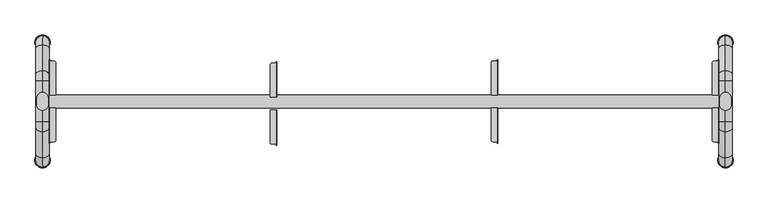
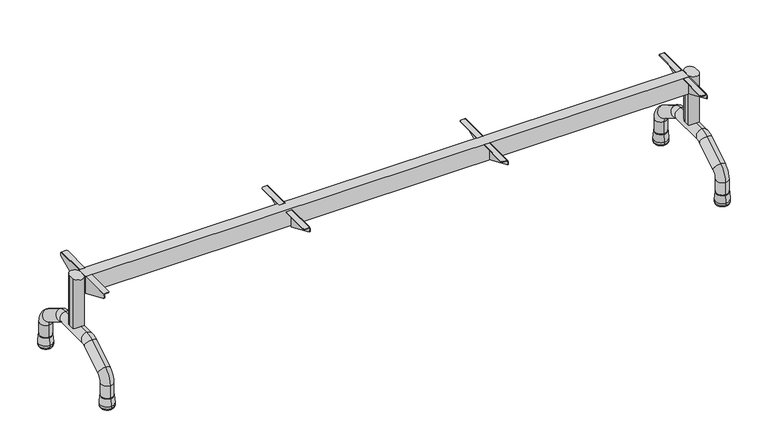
"""IFC4 building model written with IfcOpenShell, lengths in millimetres: furniture geometry, Banco para refeitório : Banco para refeitório 220x30cm cód 40473.4."""

from ifc_helpers import new_model, si_unit, point, frame, frame_2d, origin, place, context, project, spatial, polyline, circle_curve, ellipse_curve, trimmed, segment, composite_curve, outline, extrude, source, transform, mapped, element, save
from ifc_brep_helpers import plane_surface, cylinder_surface, revolved_surface, advanced_brep


def furniture_98b8466e(model_context):
    return source(origin(), model_context, "Body", "SolidModel", [
        extrude(outline(composite_curve([segment(trimmed(circle_curve(frame_2d((-1040.0, -9.5)), 18.0), [point((-1022.0, -9.5))], [point((-1058.0, -9.5))], False, "CARTESIAN"), True, "CONTINUOUS"), segment(polyline([(-1058.0, -9.5), (-1058.0, 9.5)]), True, "CONTINUOUS"), segment(trimmed(circle_curve(frame_2d((-1040.0, 9.5)), 18.0), [point((-1058.0, 9.5))], [point((-1022.0, 9.5))], False, "CARTESIAN"), True, "CONTINUOUS"), segment(polyline([(-1022.0, 9.5), (-1022.0, -9.5)]), True, "CONTINUOUS")], self_intersect=False)), frame((0.0, 0.0, 175.0), z_axis=(0.0, 0.0, 1.0), x_axis=(1.0, 0.0, 0.0)), (0.0, 0.0, 1.0), 187.0),
        advanced_brep(
        [(-1040.0, -160.0, 43.1183008), (-1040.0, -200.0, 43.1183008), (-1040.0, -160.0, 86.179057), (-1040.0, -200.0, 86.179057), (-1040.0, -171.6393713, 137.1589568), (-1040.0, -150.5464571, 103.1723569), (-1040.0, -71.882227, 151.9932999), (-1040.0, -92.9751412, 185.9798998), (-1040.0, -61.3357699, 195.0), (-1040.0, -61.3357699, 155.0), (-1040.0, 61.3357699, 155.0), (-1040.0, 61.3357699, 195.0), (-1040.0, 160.0, 43.1183008), (-1040.0, 200.0, 43.1183008), (-1040.0, 92.9751412, 185.9798998), (-1040.0, 71.882227, 151.9932999), (-1040.0, 150.5464571, 103.1723569), (-1040.0, 171.6393713, 137.1589568), (-1040.0, 200.0, 86.179057), (-1040.0, 160.0, 86.179057)],
        [
            (0, 1, circle_curve(frame((-1040.0, -180.0, 43.1183008), z_axis=(0.0, 0.0, -1.0), x_axis=(0.0, -1.0, 0.0)), 20.0)),
            (1, 0, circle_curve(frame((-1040.0, -180.0, 43.1183008), z_axis=(0.0, 0.0, -1.0), x_axis=(0.0, -1.0, 0.0)), 20.0)),
            (0, 2),
            (2, 3, circle_curve(frame((-1040.0, -180.0, 86.179057), z_axis=(0.0, 0.0, -1.0), x_axis=(0.0, -1.0, 0.0)), 20.0)),
            (3, 1),
            (3, 2, circle_curve(frame((-1040.0, -180.0, 86.179057), z_axis=(0.0, 0.0, -1.0), x_axis=(0.0, -1.0, 0.0)), 20.0)),
            (4, 5, circle_curve(frame((-1040.0, -161.0929142, 120.1656569), z_axis=(0.0, 0.8496649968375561, 0.5273228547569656), x_axis=(0.0, -0.5273228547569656, 0.8496649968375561)), 20.0)),
            (5, 6),
            (6, 7, circle_curve(frame((-1040.0, -82.4286841, 168.9865999), z_axis=(0.0, -0.8496649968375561, -0.5273228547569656), x_axis=(0.0, -0.5273228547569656, 0.8496649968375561)), 20.0)),
            (7, 4),
            (5, 4, circle_curve(frame((-1040.0, -161.0929142, 120.1656569), z_axis=(0.0, 0.8496649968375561, 0.5273228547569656), x_axis=(0.0, -0.5273228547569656, 0.8496649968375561)), 20.0)),
            (7, 6, circle_curve(frame((-1040.0, -82.4286841, 168.9865999), z_axis=(0.0, -0.8496649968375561, -0.5273228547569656), x_axis=(0.0, -0.5273228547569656, 0.8496649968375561)), 20.0)),
            (8, 9, circle_curve(frame((-1040.0, -61.3357699, 175.0), z_axis=(0.0, 1.0, 0.0), x_axis=(0.0, 0.0, 1.0)), 20.0)),
            (9, 10),
            (10, 11, circle_curve(frame((-1040.0, 61.3357699, 175.0), z_axis=(0.0, -1.0, 0.0), x_axis=(0.0, 0.0, 1.0)), 20.0)),
            (11, 8),
            (9, 8, circle_curve(frame((-1040.0, -61.3357699, 175.0), z_axis=(0.0, 1.0, 0.0), x_axis=(0.0, 0.0, 1.0)), 20.0)),
            (11, 10, circle_curve(frame((-1040.0, 61.3357699, 175.0), z_axis=(0.0, -1.0, 0.0), x_axis=(0.0, 0.0, 1.0)), 20.0)),
            (12, 13, circle_curve(frame((-1040.0, 180.0, 43.1183008), z_axis=(0.0, 0.0, -1.0), x_axis=(0.0, 1.0, 0.0)), 20.0)),
            (13, 12, circle_curve(frame((-1040.0, 180.0, 43.1183008), z_axis=(0.0, 0.0, -1.0), x_axis=(0.0, 1.0, 0.0)), 20.0)),
            (4, 3, circle_curve(frame((-1040.0, -140.0, 86.179057), z_axis=(1.0, 0.0, 0.0), x_axis=(0.0, -1.0, 0.0)), 60.0)),
            (2, 5, circle_curve(frame((-1040.0, -140.0, 86.179057), z_axis=(-1.0, 0.0, 0.0), x_axis=(0.0, -1.0, 0.0)), 20.0)),
            (8, 7, circle_curve(frame((-1040.0, -61.3357699, 135.0), z_axis=(1.0, 0.0, 0.0), x_axis=(0.0, -0.5273228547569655, 0.8496649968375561)), 60.0)),
            (6, 9, circle_curve(frame((-1040.0, -61.3357699, 135.0), z_axis=(-1.0, 0.0, 0.0), x_axis=(0.0, -0.5273228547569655, 0.8496649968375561)), 20.0)),
            (14, 11, circle_curve(frame((-1040.0, 61.3357699, 135.0), z_axis=(1.0, 0.0, 0.0), x_axis=(0.0, 0.0, 1.0)), 60.0)),
            (10, 15, circle_curve(frame((-1040.0, 61.3357699, 135.0), z_axis=(-1.0, 0.0, 0.0), x_axis=(0.0, 0.0, 1.0)), 20.0)),
            (15, 14, circle_curve(frame((-1040.0, 82.4286841, 168.9865999), z_axis=(0.0, -0.8496649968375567, 0.5273228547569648), x_axis=(0.0, 0.5273228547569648, 0.8496649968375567)), 20.0)),
            (14, 15, circle_curve(frame((-1040.0, 82.4286841, 168.9865999), z_axis=(0.0, -0.8496649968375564, 0.5273228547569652), x_axis=(0.0, 0.5273228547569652, 0.8496649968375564)), 20.0)),
            (15, 16),
            (16, 17, circle_curve(frame((-1040.0, 161.0929142, 120.1656569), z_axis=(0.0, -0.849664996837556, 0.5273228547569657), x_axis=(0.0, 0.5273228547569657, 0.849664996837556)), 20.0)),
            (17, 14),
            (17, 16, circle_curve(frame((-1040.0, 161.0929142, 120.1656569), z_axis=(0.0, -0.849664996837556, 0.5273228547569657), x_axis=(0.0, 0.5273228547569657, 0.849664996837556)), 20.0)),
            (18, 17, circle_curve(frame((-1040.0, 140.0, 86.179057), z_axis=(1.0, 0.0, 0.0), x_axis=(0.0, 0.5273228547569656, 0.849664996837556)), 60.0)),
            (16, 19, circle_curve(frame((-1040.0, 140.0, 86.179057), z_axis=(-1.0, 0.0, 0.0), x_axis=(0.0, 0.5273228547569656, 0.849664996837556)), 20.0)),
            (19, 18, circle_curve(frame((-1040.0, 180.0, 86.179057), z_axis=(0.0, 0.0, 1.0), x_axis=(0.0, 1.0, 0.0)), 20.0)),
            (18, 19, circle_curve(frame((-1040.0, 180.0, 86.179057), z_axis=(0.0, 0.0, 1.0), x_axis=(0.0, 1.0, 0.0)), 20.0)),
            (19, 12),
            (13, 18),
        ],
        [
            plane_surface(frame((-1730.0, -180.0, 43.1183008), z_axis=(0.0, 0.0, -1.0), x_axis=(1.0, 0.0, 0.0))),
            cylinder_surface(frame((-1040.0, -180.0, 43.1183008), z_axis=(0.0, 0.0, -1.0), x_axis=(0.0, -1.0, 0.0)), 20.0),
            cylinder_surface(frame((-1040.0, -161.0929142, 120.1656569), z_axis=(0.0, -0.8496649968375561, -0.5273228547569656), x_axis=(0.0, -0.5273228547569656, 0.8496649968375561)), 20.0),
            cylinder_surface(frame((-1040.0, -61.3357699, 175.0), z_axis=(0.0, -1.0, 0.0), x_axis=(0.0, 0.0, 1.0)), 20.0),
            plane_surface(frame((-1730.0, 180.0, 43.1183008), z_axis=(0.0, 0.0, -1.0), x_axis=(1.0, 0.0, 0.0))),
            revolved_surface(trimmed(ellipse_curve(frame((-1040.0, -180.0, 86.179057), z_axis=(0.0, 0.0, -1.0), x_axis=(0.0, -1.0, 0.0)), 20.0, 20.0), [point((-1040.0, -160.0, 86.179057))], [point((-1040.0, -200.0, 86.179057))], True, "CARTESIAN"), (-1730.0, -140.0, 86.179057), (-1.0, 0.0, 0.0)),
            revolved_surface(trimmed(ellipse_curve(frame((-1040.0, -180.0, 86.179057), z_axis=(0.0, 0.0, -1.0), x_axis=(0.0, -1.0, 0.0)), 20.0, 20.0), [point((-1040.0, -200.0, 86.179057))], [point((-1040.0, -160.0, 86.179057))], True, "CARTESIAN"), (-1730.0, -140.0, 86.179057), (-1.0, 0.0, 0.0)),
            revolved_surface(trimmed(ellipse_curve(frame((-1040.0, -82.4286841, 168.9865999), z_axis=(0.0, -0.8496649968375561, -0.5273228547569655), x_axis=(0.0, -0.5273228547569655, 0.8496649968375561)), 20.0, 20.0), [point((-1040.0, -71.882227, 151.9932999))], [point((-1040.0, -92.9751412, 185.9798998))], True, "CARTESIAN"), (-1730.0, -61.3357699, 135.0), (-1.0, 0.0, 0.0)),
            revolved_surface(trimmed(ellipse_curve(frame((-1040.0, -82.4286841, 168.9865999), z_axis=(0.0, -0.8496649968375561, -0.5273228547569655), x_axis=(0.0, -0.5273228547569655, 0.8496649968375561)), 20.0, 20.0), [point((-1040.0, -92.9751412, 185.9798998))], [point((-1040.0, -71.882227, 151.9932999))], True, "CARTESIAN"), (-1730.0, -61.3357699, 135.0), (-1.0, 0.0, 0.0)),
            revolved_surface(trimmed(ellipse_curve(frame((-1040.0, 61.3357699, 175.0), z_axis=(0.0, -1.0, 0.0), x_axis=(0.0, 0.0, 1.0)), 20.0, 20.0), [point((-1040.0, 61.3357699, 155.0))], [point((-1040.0, 61.3357699, 195.0))], True, "CARTESIAN"), (-1730.0, 61.3357699, 135.0), (-1.0, 0.0, 0.0)),
            revolved_surface(trimmed(ellipse_curve(frame((-1040.0, 61.3357699, 175.0), z_axis=(0.0, -1.0, 0.0), x_axis=(0.0, 0.0, 1.0)), 20.0, 20.0), [point((-1040.0, 61.3357699, 195.0))], [point((-1040.0, 61.3357699, 155.0))], True, "CARTESIAN"), (-1730.0, 61.3357699, 135.0), (-1.0, 0.0, 0.0)),
            cylinder_surface(frame((-1040.0, 82.4286841, 168.9865999), z_axis=(0.0, -0.849664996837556, 0.5273228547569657), x_axis=(0.0, 0.5273228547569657, 0.849664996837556)), 20.0),
            revolved_surface(trimmed(ellipse_curve(frame((-1040.0, 161.0929142, 120.1656569), z_axis=(0.0, -0.8496649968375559, 0.5273228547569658), x_axis=(0.0, 0.5273228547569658, 0.8496649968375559)), 20.0, 20.0), [point((-1040.0, 150.5464571, 103.1723569))], [point((-1040.0, 171.6393713, 137.1589568))], True, "CARTESIAN"), (-1730.0, 140.0, 86.179057), (-1.0, 0.0, 0.0)),
            revolved_surface(trimmed(ellipse_curve(frame((-1040.0, 161.0929142, 120.1656569), z_axis=(0.0, -0.8496649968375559, 0.5273228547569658), x_axis=(0.0, 0.5273228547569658, 0.8496649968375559)), 20.0, 20.0), [point((-1040.0, 171.6393713, 137.1589568))], [point((-1040.0, 150.5464571, 103.1723569))], True, "CARTESIAN"), (-1730.0, 140.0, 86.179057), (-1.0, 0.0, 0.0)),
            cylinder_surface(frame((-1040.0, 180.0, 86.179057), z_axis=(0.0, 0.0, 1.0), x_axis=(0.0, 1.0, 0.0)), 20.0),
        ],
        [
            (0, [[1, 2]]),
            (1, [[-1, 3, 4, 5]]),
            (1, [[-2, -5, 6, -3]]),
            (2, [[7, 8, 9, 10]]),
            (2, [[11, -10, 12, -8]]),
            (3, [[13, 14, 15, 16]]),
            (3, [[17, -16, 18, -14]]),
            (4, [[19, 20]]),
            (5, [[21, -4, 22, -7]]),
            (6, [[-22, -6, -21, -11]]),
            (7, [[23, -9, 24, -13]]),
            (8, [[-24, -12, -23, -17]]),
            (9, [[25, -15, 26, 27]]),
            (10, [[-26, -18, -25, 28]]),
            (11, [[-27, 29, 30, 31]]),
            (11, [[-28, -31, 32, -29]]),
            (12, [[33, -30, 34, 35]]),
            (13, [[-34, -32, -33, 36]]),
            (14, [[-35, 37, -20, 38]]),
            (14, [[-36, -38, -19, -37]]),
        ],
    ),
        extrude(outline(composite_curve([segment(trimmed(circle_curve(frame_2d((1040.0, -9.5)), 18.0), [point((1058.0, -9.5))], [point((1022.0, -9.5))], False, "CARTESIAN"), True, "CONTINUOUS"), segment(polyline([(1022.0, -9.5), (1022.0, 9.5)]), True, "CONTINUOUS"), segment(trimmed(circle_curve(frame_2d((1040.0, 9.5)), 18.0), [point((1022.0, 9.5))], [point((1058.0, 9.5))], False, "CARTESIAN"), True, "CONTINUOUS"), segment(polyline([(1058.0, 9.5), (1058.0, -9.5)]), True, "CONTINUOUS")], self_intersect=False)), frame((0.0, 0.0, 175.0), z_axis=(0.0, 0.0, 1.0), x_axis=(1.0, 0.0, 0.0)), (0.0, 0.0, 1.0), 187.0),
        advanced_brep(
        [(1040.0, -160.0, 43.1183008), (1040.0, -200.0, 43.1183008), (1040.0, -160.0, 86.179057), (1040.0, -200.0, 86.179057), (1040.0, -171.6393713, 137.1589568), (1040.0, -150.5464571, 103.1723569), (1040.0, -71.882227, 151.9932999), (1040.0, -92.9751412, 185.9798998), (1040.0, -61.3357699, 195.0), (1040.0, -61.3357699, 155.0), (1040.0, 61.3357699, 155.0), (1040.0, 61.3357699, 195.0), (1040.0, 160.0, 43.1183008), (1040.0, 200.0, 43.1183008), (1040.0, 92.9751412, 185.9798998), (1040.0, 71.882227, 151.9932999), (1040.0, 150.5464571, 103.1723569), (1040.0, 171.6393713, 137.1589568), (1040.0, 200.0, 86.179057), (1040.0, 160.0, 86.179057)],
        [
            (0, 1, circle_curve(frame((1040.0, -180.0, 43.1183008), z_axis=(0.0, 0.0, -1.0), x_axis=(0.0, -1.0, 0.0)), 20.0)),
            (1, 0, circle_curve(frame((1040.0, -180.0, 43.1183008), z_axis=(0.0, 0.0, -1.0), x_axis=(0.0, -1.0, 0.0)), 20.0)),
            (0, 2),
            (2, 3, circle_curve(frame((1040.0, -180.0, 86.179057), z_axis=(0.0, 0.0, -1.0), x_axis=(0.0, -1.0, 0.0)), 20.0)),
            (3, 1),
            (3, 2, circle_curve(frame((1040.0, -180.0, 86.179057), z_axis=(0.0, 0.0, -1.0), x_axis=(0.0, -1.0, 0.0)), 20.0)),
            (4, 5, circle_curve(frame((1040.0, -161.0929142, 120.1656569), z_axis=(0.0, 0.8496649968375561, 0.5273228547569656), x_axis=(0.0, -0.5273228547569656, 0.8496649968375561)), 20.0)),
            (5, 6),
            (6, 7, circle_curve(frame((1040.0, -82.4286841, 168.9865999), z_axis=(0.0, -0.8496649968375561, -0.5273228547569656), x_axis=(0.0, -0.5273228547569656, 0.8496649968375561)), 20.0)),
            (7, 4),
            (5, 4, circle_curve(frame((1040.0, -161.0929142, 120.1656569), z_axis=(0.0, 0.8496649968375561, 0.5273228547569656), x_axis=(0.0, -0.5273228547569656, 0.8496649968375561)), 20.0)),
            (7, 6, circle_curve(frame((1040.0, -82.4286841, 168.9865999), z_axis=(0.0, -0.8496649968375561, -0.5273228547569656), x_axis=(0.0, -0.5273228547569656, 0.8496649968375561)), 20.0)),
            (8, 9, circle_curve(frame((1040.0, -61.3357699, 175.0), z_axis=(0.0, 1.0, 0.0), x_axis=(0.0, 0.0, 1.0)), 20.0)),
            (9, 10),
            (10, 11, circle_curve(frame((1040.0, 61.3357699, 175.0), z_axis=(0.0, -1.0, 0.0), x_axis=(0.0, 0.0, 1.0)), 20.0)),
            (11, 8),
            (9, 8, circle_curve(frame((1040.0, -61.3357699, 175.0), z_axis=(0.0, 1.0, 0.0), x_axis=(0.0, 0.0, 1.0)), 20.0)),
            (11, 10, circle_curve(frame((1040.0, 61.3357699, 175.0), z_axis=(0.0, -1.0, 0.0), x_axis=(0.0, 0.0, 1.0)), 20.0)),
            (12, 13, circle_curve(frame((1040.0, 180.0, 43.1183008), z_axis=(0.0, 0.0, -1.0), x_axis=(0.0, 1.0, 0.0)), 20.0)),
            (13, 12, circle_curve(frame((1040.0, 180.0, 43.1183008), z_axis=(0.0, 0.0, -1.0), x_axis=(0.0, 1.0, 0.0)), 20.0)),
            (4, 3, circle_curve(frame((1040.0, -140.0, 86.179057), z_axis=(1.0, 0.0, 0.0), x_axis=(0.0, -1.0, 0.0)), 60.0)),
            (2, 5, circle_curve(frame((1040.0, -140.0, 86.179057), z_axis=(-1.0, 0.0, 0.0), x_axis=(0.0, -1.0, 0.0)), 20.0)),
            (8, 7, circle_curve(frame((1040.0, -61.3357699, 135.0), z_axis=(1.0, 0.0, 0.0), x_axis=(0.0, -0.5273228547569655, 0.8496649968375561)), 60.0)),
            (6, 9, circle_curve(frame((1040.0, -61.3357699, 135.0), z_axis=(-1.0, 0.0, 0.0), x_axis=(0.0, -0.5273228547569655, 0.8496649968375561)), 20.0)),
            (14, 11, circle_curve(frame((1040.0, 61.3357699, 135.0), z_axis=(1.0, 0.0, 0.0), x_axis=(0.0, 0.0, 1.0)), 60.0)),
            (10, 15, circle_curve(frame((1040.0, 61.3357699, 135.0), z_axis=(-1.0, 0.0, 0.0), x_axis=(0.0, 0.0, 1.0)), 20.0)),
            (15, 14, circle_curve(frame((1040.0, 82.4286841, 168.9865999), z_axis=(0.0, -0.8496649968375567, 0.5273228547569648), x_axis=(0.0, 0.5273228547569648, 0.8496649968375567)), 20.0)),
            (14, 15, circle_curve(frame((1040.0, 82.4286841, 168.9865999), z_axis=(0.0, -0.8496649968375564, 0.5273228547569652), x_axis=(0.0, 0.5273228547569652, 0.8496649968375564)), 20.0)),
            (15, 16),
            (16, 17, circle_curve(frame((1040.0, 161.0929142, 120.1656569), z_axis=(0.0, -0.849664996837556, 0.5273228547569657), x_axis=(0.0, 0.5273228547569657, 0.849664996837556)), 20.0)),
            (17, 14),
            (17, 16, circle_curve(frame((1040.0, 161.0929142, 120.1656569), z_axis=(0.0, -0.849664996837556, 0.5273228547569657), x_axis=(0.0, 0.5273228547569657, 0.849664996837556)), 20.0)),
            (18, 17, circle_curve(frame((1040.0, 140.0, 86.179057), z_axis=(1.0, 0.0, 0.0), x_axis=(0.0, 0.5273228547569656, 0.849664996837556)), 60.0)),
            (16, 19, circle_curve(frame((1040.0, 140.0, 86.179057), z_axis=(-1.0, 0.0, 0.0), x_axis=(0.0, 0.5273228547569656, 0.849664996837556)), 20.0)),
            (19, 18, circle_curve(frame((1040.0, 180.0, 86.179057), z_axis=(0.0, 0.0, 1.0), x_axis=(0.0, 1.0, 0.0)), 20.0)),
            (18, 19, circle_curve(frame((1040.0, 180.0, 86.179057), z_axis=(0.0, 0.0, 1.0), x_axis=(0.0, 1.0, 0.0)), 20.0)),
            (19, 12),
            (13, 18),
        ],
        [
            plane_surface(frame((350.0, -180.0, 43.1183008), z_axis=(0.0, 0.0, -1.0), x_axis=(1.0, 0.0, 0.0))),
            cylinder_surface(frame((1040.0, -180.0, 43.1183008), z_axis=(0.0, 0.0, -1.0), x_axis=(0.0, -1.0, 0.0)), 20.0),
            cylinder_surface(frame((1040.0, -161.0929142, 120.1656569), z_axis=(0.0, -0.8496649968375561, -0.5273228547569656), x_axis=(0.0, -0.5273228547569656, 0.8496649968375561)), 20.0),
            cylinder_surface(frame((1040.0, -61.3357699, 175.0), z_axis=(0.0, -1.0, 0.0), x_axis=(0.0, 0.0, 1.0)), 20.0),
            plane_surface(frame((350.0, 180.0, 43.1183008), z_axis=(0.0, 0.0, -1.0), x_axis=(1.0, 0.0, 0.0))),
            revolved_surface(trimmed(ellipse_curve(frame((1040.0, -180.0, 86.179057), z_axis=(0.0, 0.0, -1.0), x_axis=(0.0, -1.0, 0.0)), 20.0, 20.0), [point((1040.0, -160.0, 86.179057))], [point((1040.0, -200.0, 86.179057))], True, "CARTESIAN"), (350.0, -140.0, 86.179057), (-1.0, 0.0, 0.0)),
            revolved_surface(trimmed(ellipse_curve(frame((1040.0, -180.0, 86.179057), z_axis=(0.0, 0.0, -1.0), x_axis=(0.0, -1.0, 0.0)), 20.0, 20.0), [point((1040.0, -200.0, 86.179057))], [point((1040.0, -160.0, 86.179057))], True, "CARTESIAN"), (350.0, -140.0, 86.179057), (-1.0, 0.0, 0.0)),
            revolved_surface(trimmed(ellipse_curve(frame((1040.0, -82.4286841, 168.9865999), z_axis=(0.0, -0.8496649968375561, -0.5273228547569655), x_axis=(0.0, -0.5273228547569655, 0.8496649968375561)), 20.0, 20.0), [point((1040.0, -71.882227, 151.9932999))], [point((1040.0, -92.9751412, 185.9798998))], True, "CARTESIAN"), (350.0, -61.3357699, 135.0), (-1.0, 0.0, 0.0)),
            revolved_surface(trimmed(ellipse_curve(frame((1040.0, -82.4286841, 168.9865999), z_axis=(0.0, -0.8496649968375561, -0.5273228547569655), x_axis=(0.0, -0.5273228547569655, 0.8496649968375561)), 20.0, 20.0), [point((1040.0, -92.9751412, 185.9798998))], [point((1040.0, -71.882227, 151.9932999))], True, "CARTESIAN"), (350.0, -61.3357699, 135.0), (-1.0, 0.0, 0.0)),
            revolved_surface(trimmed(ellipse_curve(frame((1040.0, 61.3357699, 175.0), z_axis=(0.0, -1.0, 0.0), x_axis=(0.0, 0.0, 1.0)), 20.0, 20.0), [point((1040.0, 61.3357699, 155.0))], [point((1040.0, 61.3357699, 195.0))], True, "CARTESIAN"), (350.0, 61.3357699, 135.0), (-1.0, 0.0, 0.0)),
            revolved_surface(trimmed(ellipse_curve(frame((1040.0, 61.3357699, 175.0), z_axis=(0.0, -1.0, 0.0), x_axis=(0.0, 0.0, 1.0)), 20.0, 20.0), [point((1040.0, 61.3357699, 195.0))], [point((1040.0, 61.3357699, 155.0))], True, "CARTESIAN"), (350.0, 61.3357699, 135.0), (-1.0, 0.0, 0.0)),
            cylinder_surface(frame((1040.0, 82.4286841, 168.9865999), z_axis=(0.0, -0.849664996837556, 0.5273228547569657), x_axis=(0.0, 0.5273228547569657, 0.849664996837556)), 20.0),
            revolved_surface(trimmed(ellipse_curve(frame((1040.0, 161.0929142, 120.1656569), z_axis=(0.0, -0.8496649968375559, 0.5273228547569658), x_axis=(0.0, 0.5273228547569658, 0.8496649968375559)), 20.0, 20.0), [point((1040.0, 150.5464571, 103.1723569))], [point((1040.0, 171.6393713, 137.1589568))], True, "CARTESIAN"), (350.0, 140.0, 86.179057), (-1.0, 0.0, 0.0)),
            revolved_surface(trimmed(ellipse_curve(frame((1040.0, 161.0929142, 120.1656569), z_axis=(0.0, -0.8496649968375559, 0.5273228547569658), x_axis=(0.0, 0.5273228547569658, 0.8496649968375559)), 20.0, 20.0), [point((1040.0, 171.6393713, 137.1589568))], [point((1040.0, 150.5464571, 103.1723569))], True, "CARTESIAN"), (350.0, 140.0, 86.179057), (-1.0, 0.0, 0.0)),
            cylinder_surface(frame((1040.0, 180.0, 86.179057), z_axis=(0.0, 0.0, 1.0), x_axis=(0.0, 1.0, 0.0)), 20.0),
        ],
        [
            (0, [[1, 2]]),
            (1, [[-1, 3, 4, 5]]),
            (1, [[-2, -5, 6, -3]]),
            (2, [[7, 8, 9, 10]]),
            (2, [[11, -10, 12, -8]]),
            (3, [[13, 14, 15, 16]]),
            (3, [[17, -16, 18, -14]]),
            (4, [[19, 20]]),
            (5, [[21, -4, 22, -7]]),
            (6, [[-22, -6, -21, -11]]),
            (7, [[23, -9, 24, -13]]),
            (8, [[-24, -12, -23, -17]]),
            (9, [[25, -15, 26, 27]]),
            (10, [[-26, -18, -25, 28]]),
            (11, [[-27, 29, 30, 31]]),
            (11, [[-28, -31, 32, -29]]),
            (12, [[33, -30, 34, 35]]),
            (13, [[-34, -32, -33, 36]]),
            (14, [[-35, 37, -20, 38]]),
            (14, [[-36, -38, -19, -37]]),
        ],
    ),
        advanced_brep(
        [(-1040.0, 200.5839249, 42.9792915), (-1040.0, 201.212521, 42.3931162), (-1040.0, 158.787479, 42.3931162), (-1040.0, 159.4160751, 42.9792915), (-1040.0, 203.125, 15.0433923), (-1040.0, 156.875, 15.0433923), (-1040.0, 203.125, 7.2213749), (-1040.0, 156.875, 7.2213749), (-1040.0, 196.0093092, 0.1056841), (-1040.0, 163.9906908, 0.1056841), (-1040.0, 180.0, 0.1056841), (-1040.0, 180.0, 42.9792915)],
        [
            (0, 1, circle_curve(frame((-1040.0, 200.5839249, 42.3491605), z_axis=(-1.0, 0.0, 0.0), x_axis=(0.0, -1.0, 0.0)), 0.630131)),
            (1, 2, circle_curve(frame((-1040.0, 180.0, 42.3931162), z_axis=(0.0, 0.0, 1.0), x_axis=(0.0, -1.0, 0.0)), 21.212521)),
            (2, 3, circle_curve(frame((-1040.0, 159.4160751, 42.3491605), z_axis=(-1.0, 0.0, 0.0), x_axis=(0.0, 1.0, 0.0)), 0.630131)),
            (3, 0, circle_curve(frame((-1040.0, 180.0, 42.9792915), z_axis=(0.0, 0.0, -1.0), x_axis=(0.0, -1.0, 0.0)), 20.5839249)),
            (2, 1, circle_curve(frame((-1040.0, 180.0, 42.3931162), z_axis=(0.0, 0.0, 1.0), x_axis=(0.0, -1.0, 0.0)), 21.212521)),
            (0, 3, circle_curve(frame((-1040.0, 180.0, 42.9792915), z_axis=(0.0, 0.0, -1.0), x_axis=(0.0, -1.0, 0.0)), 20.5839249)),
            (1, 4),
            (4, 5, circle_curve(frame((-1040.0, 180.0, 15.0433923), z_axis=(0.0, 0.0, 1.0), x_axis=(0.0, -1.0, 0.0)), 23.125)),
            (5, 2),
            (5, 4, circle_curve(frame((-1040.0, 180.0, 15.0433923), z_axis=(0.0, 0.0, 1.0), x_axis=(0.0, -1.0, 0.0)), 23.125)),
            (4, 6),
            (6, 7, circle_curve(frame((-1040.0, 180.0, 7.2213749), z_axis=(0.0, 0.0, 1.0), x_axis=(0.0, -1.0, 0.0)), 23.125)),
            (7, 5),
            (7, 6, circle_curve(frame((-1040.0, 180.0, 7.2213749), z_axis=(0.0, 0.0, 1.0), x_axis=(0.0, -1.0, 0.0)), 23.125)),
            (6, 8, circle_curve(frame((-1040.0, 196.0093092, 7.2213749), z_axis=(-1.0, 0.0, 0.0), x_axis=(0.0, -1.0, 0.0)), 7.1156908)),
            (8, 9, circle_curve(frame((-1040.0, 180.0, 0.1056841), z_axis=(0.0, 0.0, 1.0), x_axis=(0.0, -1.0, 0.0)), 16.0093092)),
            (9, 7, circle_curve(frame((-1040.0, 163.9906908, 7.2213749), z_axis=(-1.0, 0.0, 0.0), x_axis=(0.0, 1.0, 0.0)), 7.1156908)),
            (9, 8, circle_curve(frame((-1040.0, 180.0, 0.1056841), z_axis=(0.0, 0.0, 1.0), x_axis=(0.0, -1.0, 0.0)), 16.0093092)),
            (8, 10),
            (10, 9),
            (11, 0),
            (3, 11),
        ],
        [
            revolved_surface(trimmed(ellipse_curve(frame((-1040.0, 159.4160751, 42.3491605), z_axis=(-1.0, 0.0, 0.0), x_axis=(0.0, 1.0, 0.0)), 0.630131, 0.630131), [point((-1040.0, 158.787479, 42.3931162))], [point((-1040.0, 159.4160751, 42.9792915))], True, "CARTESIAN"), (-1040.0, 180.0, 0.1056841), (0.0, 0.0, 1.0)),
            revolved_surface(polyline([(-1040.0, 156.875, 15.0433923), (-1040.0, 158.787479, 42.3931162)]), (-1040.0, 180.0, 0.1056841), (0.0, 0.0, 1.0)),
            cylinder_surface(frame((-1040.0, 180.0, 0.1056841), z_axis=(0.0, 0.0, 1.0), x_axis=(0.0, -1.0, 0.0)), 23.125),
            revolved_surface(trimmed(ellipse_curve(frame((-1040.0, 163.9906908, 7.2213749), z_axis=(-1.0, 0.0, 0.0), x_axis=(0.0, 1.0, 0.0)), 7.1156908, 7.1156908), [point((-1040.0, 163.9906908, 0.1056841))], [point((-1040.0, 156.875, 7.2213749))], True, "CARTESIAN"), (-1040.0, 180.0, 0.1056841), (0.0, 0.0, 1.0)),
            plane_surface(frame((-1040.0, 180.0, 0.1056841), z_axis=(0.0, 0.0, -1.0), x_axis=(0.0, -1.0, 0.0))),
            plane_surface(frame((-1040.0, 180.0, 42.9792915), z_axis=(0.0, 0.0, 1.0), x_axis=(0.0, -1.0, 0.0))),
        ],
        [
            (0, [[1, 2, 3, 4]]),
            (0, [[-3, 5, -1, 6]]),
            (1, [[7, 8, 9, -2]]),
            (1, [[-9, 10, -7, -5]]),
            (2, [[11, 12, 13, -8]]),
            (2, [[-13, 14, -11, -10]]),
            (3, [[15, 16, 17, -12]]),
            (3, [[-17, 18, -15, -14]]),
            (4, [[19, 20, -16]]),
            (4, [[-20, -19, -18]]),
            (5, [[21, -4, 22]]),
            (5, [[-22, -6, -21]]),
        ],
    ),
        advanced_brep(
        [(-1040.0, -159.4160751, 42.9792915), (-1040.0, -158.787479, 42.3931162), (-1040.0, -201.212521, 42.3931162), (-1040.0, -200.5839249, 42.9792915), (-1040.0, -156.875, 15.0433923), (-1040.0, -203.125, 15.0433923), (-1040.0, -156.875, 7.2213749), (-1040.0, -203.125, 7.2213749), (-1040.0, -163.9906908, 0.1056841), (-1040.0, -196.0093092, 0.1056841), (-1040.0, -180.0, 0.1056841), (-1040.0, -180.0, 42.9792915)],
        [
            (0, 1, circle_curve(frame((-1040.0, -159.4160751, 42.3491605), z_axis=(-1.0, 0.0, 0.0), x_axis=(0.0, -1.0, 0.0)), 0.630131)),
            (1, 2, circle_curve(frame((-1040.0, -180.0, 42.3931162), z_axis=(0.0, 0.0, 1.0), x_axis=(0.0, -1.0, 0.0)), 21.212521)),
            (2, 3, circle_curve(frame((-1040.0, -200.5839249, 42.3491605), z_axis=(-1.0, 0.0, 0.0), x_axis=(0.0, 1.0, 0.0)), 0.630131)),
            (3, 0, circle_curve(frame((-1040.0, -180.0, 42.9792915), z_axis=(0.0, 0.0, -1.0), x_axis=(0.0, -1.0, 0.0)), 20.5839249)),
            (2, 1, circle_curve(frame((-1040.0, -180.0, 42.3931162), z_axis=(0.0, 0.0, 1.0), x_axis=(0.0, -1.0, 0.0)), 21.212521)),
            (0, 3, circle_curve(frame((-1040.0, -180.0, 42.9792915), z_axis=(0.0, 0.0, -1.0), x_axis=(0.0, -1.0, 0.0)), 20.5839249)),
            (1, 4),
            (4, 5, circle_curve(frame((-1040.0, -180.0, 15.0433923), z_axis=(0.0, 0.0, 1.0), x_axis=(0.0, -1.0, 0.0)), 23.125)),
            (5, 2),
            (5, 4, circle_curve(frame((-1040.0, -180.0, 15.0433923), z_axis=(0.0, 0.0, 1.0), x_axis=(0.0, -1.0, 0.0)), 23.125)),
            (4, 6),
            (6, 7, circle_curve(frame((-1040.0, -180.0, 7.2213749), z_axis=(0.0, 0.0, 1.0), x_axis=(0.0, -1.0, 0.0)), 23.125)),
            (7, 5),
            (7, 6, circle_curve(frame((-1040.0, -180.0, 7.2213749), z_axis=(0.0, 0.0, 1.0), x_axis=(0.0, -1.0, 0.0)), 23.125)),
            (6, 8, circle_curve(frame((-1040.0, -163.9906908, 7.2213749), z_axis=(-1.0, 0.0, 0.0), x_axis=(0.0, -1.0, 0.0)), 7.1156908)),
            (8, 9, circle_curve(frame((-1040.0, -180.0, 0.1056841), z_axis=(0.0, 0.0, 1.0), x_axis=(0.0, -1.0, 0.0)), 16.0093092)),
            (9, 7, circle_curve(frame((-1040.0, -196.0093092, 7.2213749), z_axis=(-1.0, 0.0, 0.0), x_axis=(0.0, 1.0, 0.0)), 7.1156908)),
            (9, 8, circle_curve(frame((-1040.0, -180.0, 0.1056841), z_axis=(0.0, 0.0, 1.0), x_axis=(0.0, -1.0, 0.0)), 16.0093092)),
            (8, 10),
            (10, 9),
            (11, 0),
            (3, 11),
        ],
        [
            revolved_surface(trimmed(ellipse_curve(frame((-1040.0, -200.5839249, 42.3491605), z_axis=(-1.0, 0.0, 0.0), x_axis=(0.0, 1.0, 0.0)), 0.630131, 0.630131), [point((-1040.0, -201.212521, 42.3931162))], [point((-1040.0, -200.5839249, 42.9792915))], True, "CARTESIAN"), (-1040.0, -180.0, 0.1056841), (0.0, 0.0, 1.0)),
            revolved_surface(polyline([(-1040.0, -203.125, 15.0433923), (-1040.0, -201.212521, 42.3931162)]), (-1040.0, -180.0, 0.1056841), (0.0, 0.0, 1.0)),
            cylinder_surface(frame((-1040.0, -180.0, 0.1056841), z_axis=(0.0, 0.0, 1.0), x_axis=(0.0, -1.0, 0.0)), 23.125),
            revolved_surface(trimmed(ellipse_curve(frame((-1040.0, -196.0093092, 7.2213749), z_axis=(-1.0, 0.0, 0.0), x_axis=(0.0, 1.0, 0.0)), 7.1156908, 7.1156908), [point((-1040.0, -196.0093092, 0.1056841))], [point((-1040.0, -203.125, 7.2213749))], True, "CARTESIAN"), (-1040.0, -180.0, 0.1056841), (0.0, 0.0, 1.0)),
            plane_surface(frame((-1040.0, -180.0, 0.1056841), z_axis=(0.0, 0.0, -1.0), x_axis=(0.0, -1.0, 0.0))),
            plane_surface(frame((-1040.0, -180.0, 42.9792915), z_axis=(0.0, 0.0, 1.0), x_axis=(0.0, -1.0, 0.0))),
        ],
        [
            (0, [[1, 2, 3, 4]]),
            (0, [[-3, 5, -1, 6]]),
            (1, [[7, 8, 9, -2]]),
            (1, [[-9, 10, -7, -5]]),
            (2, [[11, 12, 13, -8]]),
            (2, [[-13, 14, -11, -10]]),
            (3, [[15, 16, 17, -12]]),
            (3, [[-17, 18, -15, -14]]),
            (4, [[19, 20, -16]]),
            (4, [[-20, -19, -18]]),
            (5, [[21, -4, 22]]),
            (5, [[-22, -6, -21]]),
        ],
    ),
        advanced_brep(
        [(1040.0, 200.5839249, 42.9792915), (1040.0, 159.4160751, 42.9792915), (1040.0, 158.787479, 42.3931162), (1040.0, 201.212521, 42.3931162), (1040.0, 156.875, 15.0433923), (1040.0, 203.125, 15.0433923), (1040.0, 156.875, 7.2213749), (1040.0, 203.125, 7.2213749), (1040.0, 163.9906908, 0.1056841), (1040.0, 196.0093092, 0.1056841), (1040.0, 180.0, 0.1056841), (1040.0, 180.0, 42.9792915)],
        [
            (0, 1, circle_curve(frame((1040.0, 180.0, 42.9792915), z_axis=(0.0, 0.0, -1.0), x_axis=(0.0, -1.0, 0.0)), 20.5839249)),
            (1, 2, circle_curve(frame((1040.0, 159.4160751, 42.3491605), z_axis=(1.0, 0.0, 0.0), x_axis=(0.0, 1.0, 0.0)), 0.630131)),
            (2, 3, circle_curve(frame((1040.0, 180.0, 42.3931162), z_axis=(0.0, 0.0, 1.0), x_axis=(0.0, -1.0, 0.0)), 21.212521)),
            (3, 0, circle_curve(frame((1040.0, 200.5839249, 42.3491605), z_axis=(1.0, 0.0, 0.0), x_axis=(0.0, -1.0, 0.0)), 0.630131)),
            (1, 0, circle_curve(frame((1040.0, 180.0, 42.9792915), z_axis=(0.0, 0.0, -1.0), x_axis=(0.0, -1.0, 0.0)), 20.5839249)),
            (3, 2, circle_curve(frame((1040.0, 180.0, 42.3931162), z_axis=(0.0, 0.0, 1.0), x_axis=(0.0, -1.0, 0.0)), 21.212521)),
            (2, 4),
            (4, 5, circle_curve(frame((1040.0, 180.0, 15.0433923), z_axis=(0.0, 0.0, 1.0), x_axis=(0.0, -1.0, 0.0)), 23.125)),
            (5, 3),
            (5, 4, circle_curve(frame((1040.0, 180.0, 15.0433923), z_axis=(0.0, 0.0, 1.0), x_axis=(0.0, -1.0, 0.0)), 23.125)),
            (4, 6),
            (6, 7, circle_curve(frame((1040.0, 180.0, 7.2213749), z_axis=(0.0, 0.0, 1.0), x_axis=(0.0, -1.0, 0.0)), 23.125)),
            (7, 5),
            (7, 6, circle_curve(frame((1040.0, 180.0, 7.2213749), z_axis=(0.0, 0.0, 1.0), x_axis=(0.0, -1.0, 0.0)), 23.125)),
            (6, 8, circle_curve(frame((1040.0, 163.9906908, 7.2213749), z_axis=(1.0, 0.0, 0.0), x_axis=(0.0, 1.0, 0.0)), 7.1156908)),
            (8, 9, circle_curve(frame((1040.0, 180.0, 0.1056841), z_axis=(0.0, 0.0, 1.0), x_axis=(0.0, -1.0, 0.0)), 16.0093092)),
            (9, 7, circle_curve(frame((1040.0, 196.0093092, 7.2213749), z_axis=(1.0, 0.0, 0.0), x_axis=(0.0, -1.0, 0.0)), 7.1156908)),
            (9, 8, circle_curve(frame((1040.0, 180.0, 0.1056841), z_axis=(0.0, 0.0, 1.0), x_axis=(0.0, -1.0, 0.0)), 16.0093092)),
            (8, 10),
            (10, 9),
            (11, 1),
            (0, 11),
        ],
        [
            revolved_surface(trimmed(ellipse_curve(frame((1040.0, 159.4160751, 42.3491605), z_axis=(-1.0, 0.0, 0.0), x_axis=(0.0, 1.0, 0.0)), 0.630131, 0.630131), [point((1040.0, 158.787479, 42.3931162))], [point((1040.0, 159.4160751, 42.9792915))], True, "CARTESIAN"), (1040.0, 180.0, 0.1056841), (0.0, 0.0, 1.0)),
            revolved_surface(polyline([(1040.0, 156.875, 15.0433923), (1040.0, 158.787479, 42.3931162)]), (1040.0, 180.0, 0.1056841), (0.0, 0.0, 1.0)),
            cylinder_surface(frame((1040.0, 180.0, 0.1056841), z_axis=(0.0, 0.0, 1.0), x_axis=(0.0, -1.0, 0.0)), 23.125),
            revolved_surface(trimmed(ellipse_curve(frame((1040.0, 163.9906908, 7.2213749), z_axis=(-1.0, 0.0, 0.0), x_axis=(0.0, 1.0, 0.0)), 7.1156908, 7.1156908), [point((1040.0, 163.9906908, 0.1056841))], [point((1040.0, 156.875, 7.2213749))], True, "CARTESIAN"), (1040.0, 180.0, 0.1056841), (0.0, 0.0, 1.0)),
            plane_surface(frame((1040.0, 180.0, 0.1056841), z_axis=(0.0, 0.0, -1.0), x_axis=(0.0, -1.0, 0.0))),
            plane_surface(frame((1040.0, 180.0, 42.9792915), z_axis=(0.0, 0.0, 1.0), x_axis=(0.0, -1.0, 0.0))),
        ],
        [
            (0, [[1, 2, 3, 4]]),
            (0, [[5, -4, 6, -2]]),
            (1, [[-3, 7, 8, 9]]),
            (1, [[-6, -9, 10, -7]]),
            (2, [[-8, 11, 12, 13]]),
            (2, [[-10, -13, 14, -11]]),
            (3, [[-12, 15, 16, 17]]),
            (3, [[-14, -17, 18, -15]]),
            (4, [[-16, 19, 20]]),
            (4, [[-18, -20, -19]]),
            (5, [[21, -1, 22]]),
            (5, [[-22, -5, -21]]),
        ],
    ),
        advanced_brep(
        [(1040.0, -159.4160751, 42.9792915), (1040.0, -200.5839249, 42.9792915), (1040.0, -201.212521, 42.3931162), (1040.0, -158.787479, 42.3931162), (1040.0, -203.125, 15.0433923), (1040.0, -156.875, 15.0433923), (1040.0, -203.125, 7.2213749), (1040.0, -156.875, 7.2213749), (1040.0, -196.0093092, 0.1056841), (1040.0, -163.9906908, 0.1056841), (1040.0, -180.0, 0.1056841), (1040.0, -180.0, 42.9792915)],
        [
            (0, 1, circle_curve(frame((1040.0, -180.0, 42.9792915), z_axis=(0.0, 0.0, -1.0), x_axis=(0.0, -1.0, 0.0)), 20.5839249)),
            (1, 2, circle_curve(frame((1040.0, -200.5839249, 42.3491605), z_axis=(1.0, 0.0, 0.0), x_axis=(0.0, 1.0, 0.0)), 0.630131)),
            (2, 3, circle_curve(frame((1040.0, -180.0, 42.3931162), z_axis=(0.0, 0.0, 1.0), x_axis=(0.0, -1.0, 0.0)), 21.212521)),
            (3, 0, circle_curve(frame((1040.0, -159.4160751, 42.3491605), z_axis=(1.0, 0.0, 0.0), x_axis=(0.0, -1.0, 0.0)), 0.630131)),
            (1, 0, circle_curve(frame((1040.0, -180.0, 42.9792915), z_axis=(0.0, 0.0, -1.0), x_axis=(0.0, -1.0, 0.0)), 20.5839249)),
            (3, 2, circle_curve(frame((1040.0, -180.0, 42.3931162), z_axis=(0.0, 0.0, 1.0), x_axis=(0.0, -1.0, 0.0)), 21.212521)),
            (2, 4),
            (4, 5, circle_curve(frame((1040.0, -180.0, 15.0433923), z_axis=(0.0, 0.0, 1.0), x_axis=(0.0, -1.0, 0.0)), 23.125)),
            (5, 3),
            (5, 4, circle_curve(frame((1040.0, -180.0, 15.0433923), z_axis=(0.0, 0.0, 1.0), x_axis=(0.0, -1.0, 0.0)), 23.125)),
            (4, 6),
            (6, 7, circle_curve(frame((1040.0, -180.0, 7.2213749), z_axis=(0.0, 0.0, 1.0), x_axis=(0.0, -1.0, 0.0)), 23.125)),
            (7, 5),
            (7, 6, circle_curve(frame((1040.0, -180.0, 7.2213749), z_axis=(0.0, 0.0, 1.0), x_axis=(0.0, -1.0, 0.0)), 23.125)),
            (6, 8, circle_curve(frame((1040.0, -196.0093092, 7.2213749), z_axis=(1.0, 0.0, 0.0), x_axis=(0.0, 1.0, 0.0)), 7.1156908)),
            (8, 9, circle_curve(frame((1040.0, -180.0, 0.1056841), z_axis=(0.0, 0.0, 1.0), x_axis=(0.0, -1.0, 0.0)), 16.0093092)),
            (9, 7, circle_curve(frame((1040.0, -163.9906908, 7.2213749), z_axis=(1.0, 0.0, 0.0), x_axis=(0.0, -1.0, 0.0)), 7.1156908)),
            (9, 8, circle_curve(frame((1040.0, -180.0, 0.1056841), z_axis=(0.0, 0.0, 1.0), x_axis=(0.0, -1.0, 0.0)), 16.0093092)),
            (8, 10),
            (10, 9),
            (11, 1),
            (0, 11),
        ],
        [
            revolved_surface(trimmed(ellipse_curve(frame((1040.0, -200.5839249, 42.3491605), z_axis=(-1.0, 0.0, 0.0), x_axis=(0.0, 1.0, 0.0)), 0.630131, 0.630131), [point((1040.0, -201.212521, 42.3931162))], [point((1040.0, -200.5839249, 42.9792915))], True, "CARTESIAN"), (1040.0, -180.0, 0.1056841), (0.0, 0.0, 1.0)),
            revolved_surface(polyline([(1040.0, -203.125, 15.0433923), (1040.0, -201.212521, 42.3931162)]), (1040.0, -180.0, 0.1056841), (0.0, 0.0, 1.0)),
            cylinder_surface(frame((1040.0, -180.0, 0.1056841), z_axis=(0.0, 0.0, 1.0), x_axis=(0.0, -1.0, 0.0)), 23.125),
            revolved_surface(trimmed(ellipse_curve(frame((1040.0, -196.0093092, 7.2213749), z_axis=(-1.0, 0.0, 0.0), x_axis=(0.0, 1.0, 0.0)), 7.1156908, 7.1156908), [point((1040.0, -196.0093092, 0.1056841))], [point((1040.0, -203.125, 7.2213749))], True, "CARTESIAN"), (1040.0, -180.0, 0.1056841), (0.0, 0.0, 1.0)),
            plane_surface(frame((1040.0, -180.0, 0.1056841), z_axis=(0.0, 0.0, -1.0), x_axis=(0.0, -1.0, 0.0))),
            plane_surface(frame((1040.0, -180.0, 42.9792915), z_axis=(0.0, 0.0, 1.0), x_axis=(0.0, -1.0, 0.0))),
        ],
        [
            (0, [[1, 2, 3, 4]]),
            (0, [[5, -4, 6, -2]]),
            (1, [[-3, 7, 8, 9]]),
            (1, [[-6, -9, 10, -7]]),
            (2, [[-8, 11, 12, 13]]),
            (2, [[-10, -13, 14, -11]]),
            (3, [[-12, 15, 16, 17]]),
            (3, [[-14, -17, 18, -15]]),
            (4, [[-16, 19, 20]]),
            (4, [[-18, -20, -19]]),
            (5, [[21, -1, 22]]),
            (5, [[-22, -5, -21]]),
        ],
    ),
        extrude(outline(composite_curve([segment(polyline([(-328.6666667, -27.0176362), (-328.6666667, -130.2831504), (-341.6666667, -130.2831504)]), True, "CONTINUOUS"), segment(trimmed(circle_curve(frame_2d((-341.6666667, -125.2831504)), 5.0), [point((-341.6666667, -130.2831504))], [point((-346.6666667, -125.2831504))], False, "CARTESIAN"), True, "CONTINUOUS"), segment(polyline([(-346.6666667, -125.2831504), (-346.6666667, -27.0176362), (-328.6666667, -27.0176362)]), True, "CONTINUOUS")], self_intersect=False)), frame((0.0, 0.0, 360.0), z_axis=(0.0, 0.0, 1.0), x_axis=(1.0, 0.0, 0.0)), (0.0, 0.0, 1.0), 2.0),
        extrude(outline(composite_curve([segment(polyline([(-328.6666667, 12.9823638), (-346.6666667, 12.9823638), (-346.6666667, 111.247878)]), True, "CONTINUOUS"), segment(trimmed(circle_curve(frame_2d((-341.6666667, 111.247878)), 5.0), [point((-346.6666667, 111.247878))], [point((-341.6666667, 116.247878))], False, "CARTESIAN"), True, "CONTINUOUS"), segment(polyline([(-341.6666667, 116.247878), (-328.6666667, 116.247878), (-328.6666667, 12.9823638)]), True, "CONTINUOUS")], self_intersect=False)), frame((0.0, 0.0, 360.0), z_axis=(0.0, 0.0, 1.0), x_axis=(1.0, 0.0, 0.0)), (0.0, 0.0, 1.0), 2.0),
        extrude(outline(composite_curve([segment(polyline([(344.6666667, -20.0), (344.6666667, -123.2655142), (331.6666667, -123.2655142)]), True, "CONTINUOUS"), segment(trimmed(circle_curve(frame_2d((331.6666667, -118.2655142)), 5.0), [point((331.6666667, -123.2655142))], [point((326.6666667, -118.2655142))], False, "CARTESIAN"), True, "CONTINUOUS"), segment(polyline([(326.6666667, -118.2655142), (326.6666667, -20.0), (344.6666667, -20.0)]), True, "CONTINUOUS")], self_intersect=False)), frame((0.0, 0.0, 360.0), z_axis=(0.0, 0.0, 1.0), x_axis=(1.0, 0.0, 0.0)), (0.0, 0.0, 1.0), 2.0),
        extrude(outline(composite_curve([segment(polyline([(344.6666667, 20.0), (326.6666667, 20.0), (326.6666667, 118.2655142)]), True, "CONTINUOUS"), segment(trimmed(circle_curve(frame_2d((331.6666667, 118.2655142)), 5.0), [point((326.6666667, 118.2655142))], [point((331.6666667, 123.2655142))], False, "CARTESIAN"), True, "CONTINUOUS"), segment(polyline([(331.6666667, 123.2655142), (344.6666667, 123.2655142), (344.6666667, 20.0)]), True, "CONTINUOUS")], self_intersect=False)), frame((0.0, 0.0, 360.0), z_axis=(0.0, 0.0, 1.0), x_axis=(1.0, 0.0, 0.0)), (0.0, 0.0, 1.0), 2.0),
        extrude(outline(composite_curve([segment(polyline([(20.0, 302.0), (20.0, 362.0), (119.863874, 362.0)]), True, "CONTINUOUS"), segment(trimmed(circle_curve(frame_2d((119.863874, 353.9510336)), 8.0489664), [point((119.863874, 362.0))], [point((123.2655142, 346.6561926))], False, "CARTESIAN"), True, "CONTINUOUS"), segment(polyline([(123.2655142, 346.6561926), (20.0, 302.0)]), True, "CONTINUOUS")], self_intersect=False)), frame((344.6666667, 0.0, 0.0), z_axis=(1.0, 0.0, 0.0), x_axis=(0.0, 1.0, 0.0)), (0.0, 0.0, 1.0), 2.0),
        extrude(outline(composite_curve([segment(polyline([(-20.0, 302.0), (-123.2655142, 346.6561926)]), True, "CONTINUOUS"), segment(trimmed(circle_curve(frame_2d((-119.863874, 353.9510336)), 8.0489664), [point((-123.2655142, 346.6561926))], [point((-119.863874, 362.0))], False, "CARTESIAN"), True, "CONTINUOUS"), segment(polyline([(-119.863874, 362.0), (-20.0, 362.0), (-20.0, 302.0)]), True, "CONTINUOUS")], self_intersect=False)), frame((344.6666667, 0.0, 0.0), z_axis=(1.0, 0.0, 0.0), x_axis=(0.0, 1.0, 0.0)), (0.0, 0.0, 1.0), 2.0),
        extrude(outline(composite_curve([segment(polyline([(12.9823638, 302.0), (12.9823638, 362.0), (112.8462378, 362.0)]), True, "CONTINUOUS"), segment(trimmed(circle_curve(frame_2d((112.8462378, 353.9510336)), 8.0489664), [point((112.8462378, 362.0))], [point((116.247878, 346.6561926))], False, "CARTESIAN"), True, "CONTINUOUS"), segment(polyline([(116.247878, 346.6561926), (12.9823638, 302.0)]), True, "CONTINUOUS")], self_intersect=False)), frame((-328.6666667, 0.0, 0.0), z_axis=(1.0, 0.0, 0.0), x_axis=(0.0, 1.0, 0.0)), (0.0, 0.0, 1.0), 2.0),
        extrude(outline(composite_curve([segment(polyline([(-27.0176362, 302.0), (-130.2831504, 346.6561926)]), True, "CONTINUOUS"), segment(trimmed(circle_curve(frame_2d((-126.8815102, 353.9510336)), 8.0489664), [point((-130.2831504, 346.6561926))], [point((-126.8815102, 362.0))], False, "CARTESIAN"), True, "CONTINUOUS"), segment(polyline([(-126.8815102, 362.0), (-27.0176362, 362.0), (-27.0176362, 302.0)]), True, "CONTINUOUS")], self_intersect=False)), frame((-328.6666667, 0.0, 0.0), z_axis=(1.0, 0.0, 0.0), x_axis=(0.0, 1.0, 0.0)), (0.0, 0.0, 1.0), 2.0),
        extrude(outline(composite_curve([segment(polyline([(1018.0, -20.0), (1018.0, -123.2655142), (1005.0, -123.2655142)]), True, "CONTINUOUS"), segment(trimmed(circle_curve(frame_2d((1005.0, -118.2655142)), 5.0), [point((1005.0, -123.2655142))], [point((1000.0, -118.2655142))], False, "CARTESIAN"), True, "CONTINUOUS"), segment(polyline([(1000.0, -118.2655142), (1000.0, -20.0), (1018.0, -20.0)]), True, "CONTINUOUS")], self_intersect=False)), frame((0.0, 0.0, 360.0), z_axis=(0.0, 0.0, 1.0), x_axis=(1.0, 0.0, 0.0)), (0.0, 0.0, 1.0), 2.0),
        extrude(outline(composite_curve([segment(polyline([(1018.0, 20.0), (1000.0, 20.0), (1000.0, 118.2655142)]), True, "CONTINUOUS"), segment(trimmed(circle_curve(frame_2d((1005.0, 118.2655142)), 5.0), [point((1000.0, 118.2655142))], [point((1005.0, 123.2655142))], False, "CARTESIAN"), True, "CONTINUOUS"), segment(polyline([(1005.0, 123.2655142), (1018.0, 123.2655142), (1018.0, 20.0)]), True, "CONTINUOUS")], self_intersect=False)), frame((0.0, 0.0, 360.0), z_axis=(0.0, 0.0, 1.0), x_axis=(1.0, 0.0, 0.0)), (0.0, 0.0, 1.0), 2.0),
        extrude(outline(composite_curve([segment(polyline([(-1018.0, -20.0), (-1000.0, -20.0), (-1000.0, -118.2655142)]), True, "CONTINUOUS"), segment(trimmed(circle_curve(frame_2d((-1005.0, -118.2655142)), 5.0), [point((-1000.0, -118.2655142))], [point((-1005.0, -123.2655142))], False, "CARTESIAN"), True, "CONTINUOUS"), segment(polyline([(-1005.0, -123.2655142), (-1018.0, -123.2655142), (-1018.0, -20.0)]), True, "CONTINUOUS")], self_intersect=False)), frame((0.0, 0.0, 360.0), z_axis=(0.0, 0.0, 1.0), x_axis=(1.0, 0.0, 0.0)), (0.0, 0.0, 1.0), 2.0),
        extrude(outline(composite_curve([segment(polyline([(-1018.0, 20.0), (-1018.0, 123.2655142), (-1005.0, 123.2655142)]), True, "CONTINUOUS"), segment(trimmed(circle_curve(frame_2d((-1005.0, 118.2655142)), 5.0), [point((-1005.0, 123.2655142))], [point((-1000.0, 118.2655142))], False, "CARTESIAN"), True, "CONTINUOUS"), segment(polyline([(-1000.0, 118.2655142), (-1000.0, 20.0), (-1018.0, 20.0)]), True, "CONTINUOUS")], self_intersect=False)), frame((0.0, 0.0, 360.0), z_axis=(0.0, 0.0, 1.0), x_axis=(1.0, 0.0, 0.0)), (0.0, 0.0, 1.0), 2.0),
        extrude(outline(composite_curve([segment(polyline([(20.0, 302.0), (20.0, 362.0), (119.863874, 362.0)]), True, "CONTINUOUS"), segment(trimmed(circle_curve(frame_2d((119.863874, 353.9510336)), 8.0489664), [point((119.863874, 362.0))], [point((123.2655142, 346.6561926))], False, "CARTESIAN"), True, "CONTINUOUS"), segment(polyline([(123.2655142, 346.6561926), (20.0, 302.0)]), True, "CONTINUOUS")], self_intersect=False)), frame((-1020.0, 0.0, 0.0), z_axis=(1.0, 0.0, 0.0), x_axis=(0.0, 1.0, 0.0)), (0.0, 0.0, 1.0), 2.0),
        extrude(outline(composite_curve([segment(polyline([(-20.0, 302.0), (-123.2655142, 346.6561926)]), True, "CONTINUOUS"), segment(trimmed(circle_curve(frame_2d((-119.863874, 353.9510336)), 8.0489664), [point((-123.2655142, 346.6561926))], [point((-119.863874, 362.0))], False, "CARTESIAN"), True, "CONTINUOUS"), segment(polyline([(-119.863874, 362.0), (-20.0, 362.0), (-20.0, 302.0)]), True, "CONTINUOUS")], self_intersect=False)), frame((-1020.0, 0.0, 0.0), z_axis=(1.0, 0.0, 0.0), x_axis=(0.0, 1.0, 0.0)), (0.0, 0.0, 1.0), 2.0),
        extrude(outline(composite_curve([segment(polyline([(20.0, 302.0), (20.0, 362.0), (119.863874, 362.0)]), True, "CONTINUOUS"), segment(trimmed(circle_curve(frame_2d((119.863874, 353.9510336)), 8.0489664), [point((119.863874, 362.0))], [point((123.2655142, 346.6561926))], False, "CARTESIAN"), True, "CONTINUOUS"), segment(polyline([(123.2655142, 346.6561926), (20.0, 302.0)]), True, "CONTINUOUS")], self_intersect=False)), frame((1018.0, 0.0, 0.0), z_axis=(1.0, 0.0, 0.0), x_axis=(0.0, 1.0, 0.0)), (0.0, 0.0, 1.0), 2.0),
        extrude(outline(composite_curve([segment(polyline([(-20.0, 302.0), (-123.2655142, 346.6561926)]), True, "CONTINUOUS"), segment(trimmed(circle_curve(frame_2d((-119.863874, 353.9510336)), 8.0489664), [point((-123.2655142, 346.6561926))], [point((-119.863874, 362.0))], False, "CARTESIAN"), True, "CONTINUOUS"), segment(polyline([(-119.863874, 362.0), (-20.0, 362.0), (-20.0, 302.0)]), True, "CONTINUOUS")], self_intersect=False)), frame((1018.0, 0.0, 0.0), z_axis=(1.0, 0.0, 0.0), x_axis=(0.0, 1.0, 0.0)), (0.0, 0.0, 1.0), 2.0),
        extrude(outline(polyline([(1020.0, -20.0), (-1020.0, -20.0), (-1020.0, 20.0), (1020.0, 20.0), (1020.0, -20.0)])), frame((0.0, 0.0, 302.0), z_axis=(0.0, 0.0, 1.0), x_axis=(1.0, 0.0, 0.0)), (0.0, 0.0, 1.0), 60.0),
    ])


if __name__ == "__main__":
    model = new_model("IFC4")
    model_context = context("Model", 3, world=origin())
    ifc_project = project(units=[si_unit("LENGTHUNIT", "METRE", prefix="MILLI")], contexts=[model_context])
    site = spatial("IfcSite", under=ifc_project)
    building = spatial("IfcBuilding", under=site)
    placement = place(None, origin())
    furniture_shape = furniture_98b8466e(model_context)
    element("IfcFurniture", 1, ObjectType="Banco para refeitório : Banco para refeitório 220x30cm cód 40473.4", at=placement, inside=building, context=model_context, shape_type="MappedRepresentation", body=[
        mapped(furniture_shape, transform((0.0, 0.0, 0.0), x_axis=(1.0, 0.0, 0.0), y_axis=(0.0, 1.0, 0.0), z_axis=(0.0, 0.0, 1.0))),
    ])
    save(model, "model.ifc")
